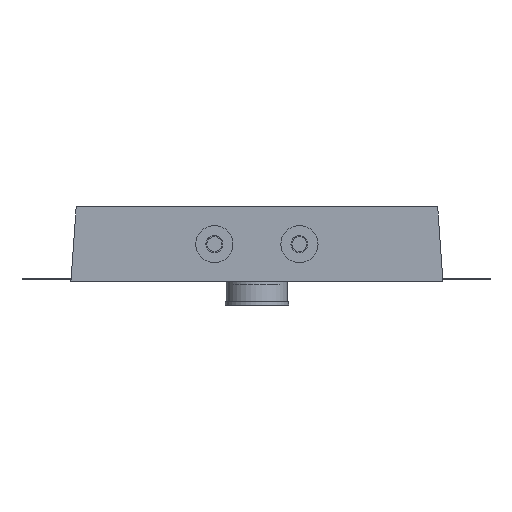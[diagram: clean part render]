
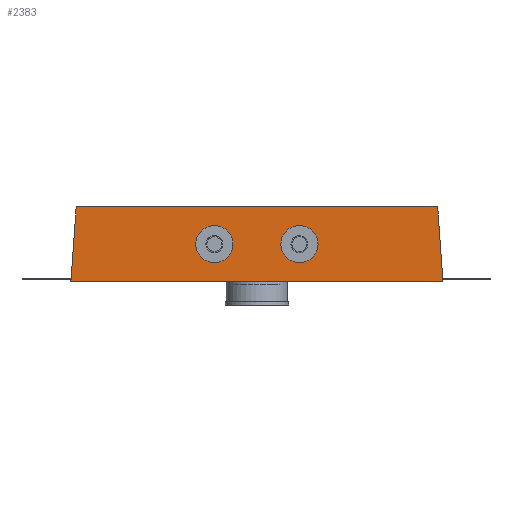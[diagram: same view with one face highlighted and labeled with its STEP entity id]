
A CAD part, front view. The second image highlights one B-rep face of the part: STEP entity #2383.
In plain terms, the highlighted planar face has unit normal (0, -1, 0) as drawn and (0, 1, 0) by its records, which use the part's own axes.
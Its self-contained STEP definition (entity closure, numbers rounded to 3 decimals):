
#129=FACE_BOUND('',#494,.T.);
#130=FACE_BOUND('',#495,.T.);
#226=PLANE('',#2671);
#345=FACE_OUTER_BOUND('',#493,.T.);
#493=EDGE_LOOP('',(#2088,#2089,#2090,#2091));
#494=EDGE_LOOP('',(#2092));
#495=EDGE_LOOP('',(#2093));
#558=LINE('',#3416,#787);
#564=LINE('',#3430,#793);
#566=LINE('',#3433,#795);
#745=LINE('',#4099,#974);
#787=VECTOR('',#2804,10.);
#793=VECTOR('',#2816,10.);
#795=VECTOR('',#2820,10.);
#974=VECTOR('',#3167,10.);
#1015=CIRCLE('',#2577,17.5);
#1017=CIRCLE('',#2581,17.5);
#1077=VERTEX_POINT('',#3398);
#1079=VERTEX_POINT('',#3405);
#1082=VERTEX_POINT('',#3413);
#1083=VERTEX_POINT('',#3415);
#1087=VERTEX_POINT('',#3427);
#1088=VERTEX_POINT('',#3429);
#1298=EDGE_CURVE('',#1077,#1077,#1015,.T.);
#1301=EDGE_CURVE('',#1079,#1079,#1017,.T.);
#1304=EDGE_CURVE('',#1083,#1082,#558,.T.);
#1311=EDGE_CURVE('',#1088,#1087,#564,.T.);
#1313=EDGE_CURVE('',#1083,#1087,#566,.T.);
#1535=EDGE_CURVE('',#1088,#1082,#745,.T.);
#2088=ORIENTED_EDGE('',*,*,#1304,.T.);
#2089=ORIENTED_EDGE('',*,*,#1535,.F.);
#2090=ORIENTED_EDGE('',*,*,#1311,.T.);
#2091=ORIENTED_EDGE('',*,*,#1313,.F.);
#2092=ORIENTED_EDGE('',*,*,#1298,.T.);
#2093=ORIENTED_EDGE('',*,*,#1301,.T.);
#2383=ADVANCED_FACE('',(#345,#129,#130),#226,.T.);
#2577=AXIS2_PLACEMENT_3D('',#3400,#2787,#2788);
#2581=AXIS2_PLACEMENT_3D('',#3407,#2796,#2797);
#2671=AXIS2_PLACEMENT_3D('',#4098,#3165,#3166);
#2787=DIRECTION('center_axis',(0.,-1.,0.));
#2788=DIRECTION('ref_axis',(-1.,0.,0.));
#2796=DIRECTION('center_axis',(0.,-1.,0.));
#2797=DIRECTION('ref_axis',(-1.,0.,0.));
#2804=DIRECTION('',(0.997,0.,0.071));
#2816=DIRECTION('',(-0.997,0.,0.071));
#2820=DIRECTION('',(0.,0.,-1.));
#3165=DIRECTION('center_axis',(0.,1.,0.));
#3166=DIRECTION('ref_axis',(0.,0.,1.));
#3167=DIRECTION('',(0.,0.,1.));
#3398=CARTESIAN_POINT('',(52.5,270.,-215.));
#3400=CARTESIAN_POINT('Origin',(35.,270.,-215.));
#3405=CARTESIAN_POINT('',(52.5,270.,-135.));
#3407=CARTESIAN_POINT('Origin',(35.,270.,-135.));
#3413=CARTESIAN_POINT('',(70.,270.,0.));
#3415=CARTESIAN_POINT('',(0.,270.,-5.));
#3416=CARTESIAN_POINT('',(22.741,270.,-3.376));
#3427=CARTESIAN_POINT('',(0.,270.,-345.));
#3429=CARTESIAN_POINT('',(70.,270.,-350.));
#3430=CARTESIAN_POINT('',(35.178,270.,-347.513));
#3433=CARTESIAN_POINT('',(0.,270.,0.));
#4098=CARTESIAN_POINT('Origin',(0.,270.,-350.));
#4099=CARTESIAN_POINT('',(70.,270.,0.));
